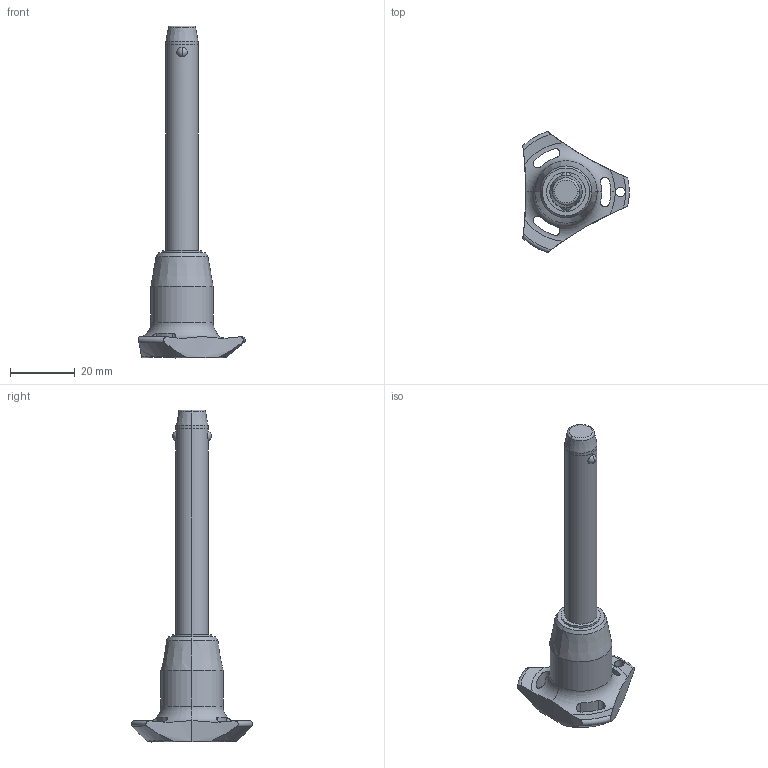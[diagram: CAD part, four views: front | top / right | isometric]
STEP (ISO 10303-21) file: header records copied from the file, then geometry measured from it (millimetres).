
FILE_DESCRIPTION (( 'STEP AP203' ), '1' );
FILE_NAME ('QR1736.M10-060-T.step', '2025-11-13T11:59:19', ( '' ), ( '' ), 'SwSTEP 2.0', 'SolidWorks 2019', '' );
FILE_SCHEMA (( 'CONFIG_CONTROL_DESIGN' ));
Length unit declared in the file: millimetre
Products named in the file (1): QR1736.M10-060-T
Bounding box: 33 x 37.51 x 102.9 mm (x, y, z)
Volume: 15792 mm3; surface area: 6049.6 mm2
Topology: 1 solids, 1 shells, 68 faces, 180 edges, 113 vertices
Faces by surface type: cylinder 32, cone 14, torus 11, sphere 6, plane 5
Entity records: 2838 total; most frequent: CARTESIAN_POINT 1098, ORIENTED_EDGE 360, DIRECTION 347, EDGE_CURVE 180, AXIS2_PLACEMENT_3D 154, VERTEX_POINT 113, CIRCLE 85, EDGE_LOOP 75
